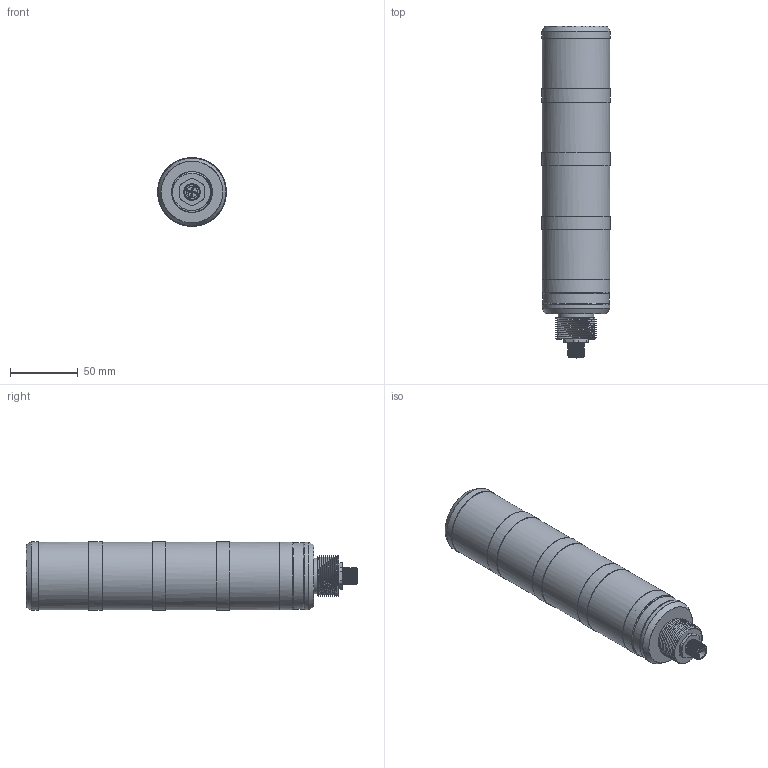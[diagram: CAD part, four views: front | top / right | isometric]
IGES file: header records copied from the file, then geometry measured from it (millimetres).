
Global section: file name: \\leuze.de\dfs01\TempdirOwen\lem\3DCAD_TL305_4xx_M12.igs; native system: NX V11.0; preprocessor: SIEMENS PLM Software NX 11.0; date: 20221222.094311; units: millimetre
Bounding box: 50.61 x 244.6 x 50.61 mm (x, y, z)
Surface area: 77094.5 mm2 (no closed solid volume)
Topology: 0 solids, 0 shells, 155 faces, 1704 edges, 1660 vertices
Faces by surface type: bspline 155
